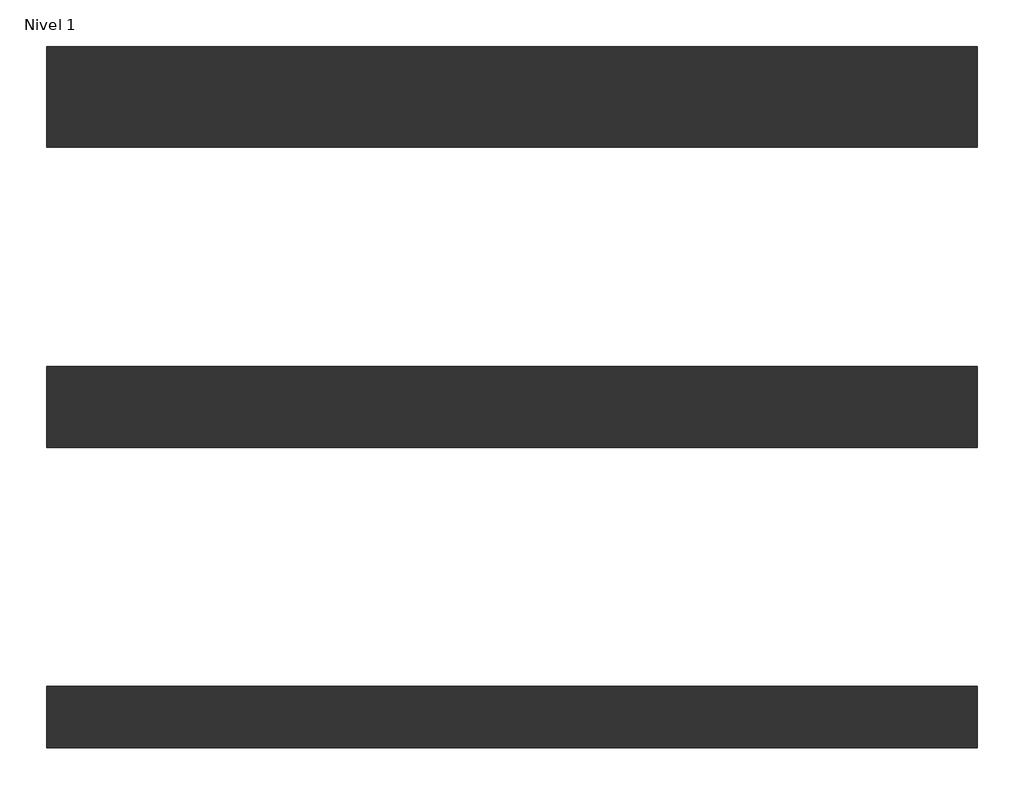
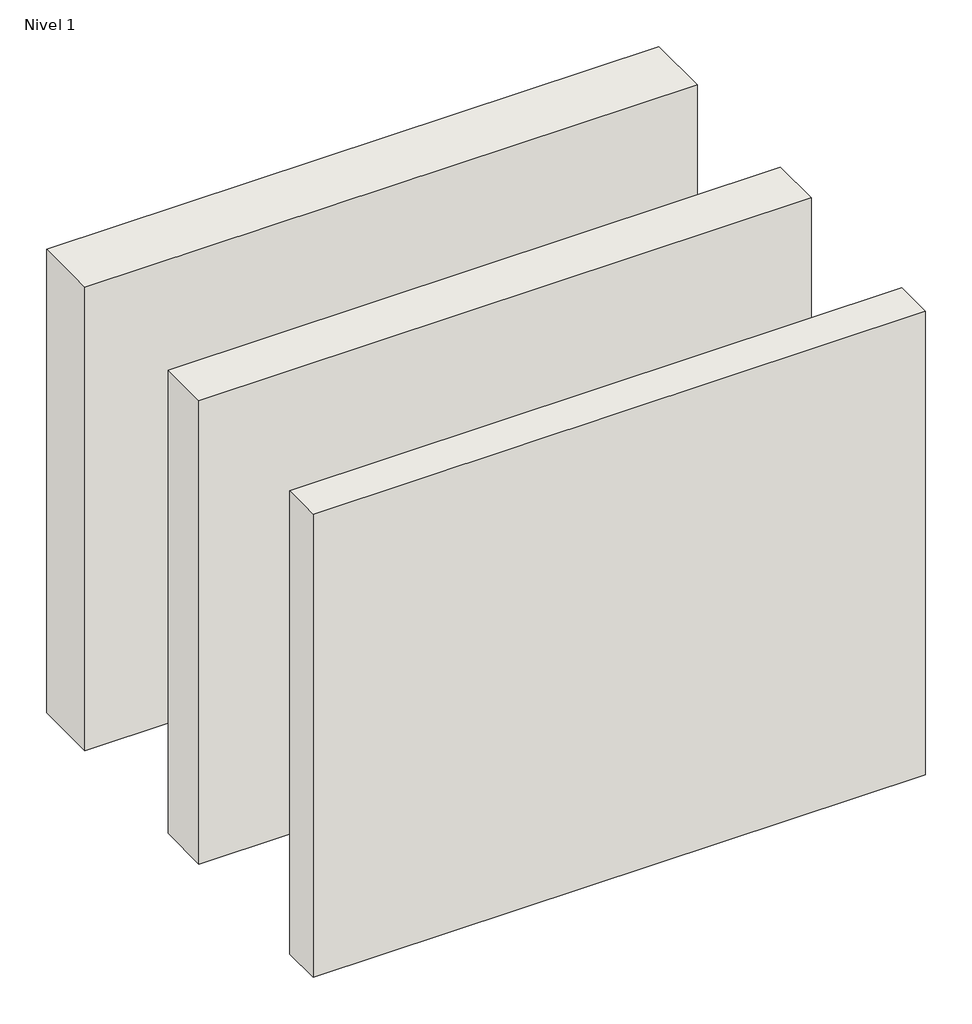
# One storey: 3 walls.
"""IFC4 building model written with IfcOpenShell, lengths in millimetres."""

from ifc_helpers import new_model, si_unit, origin, origin_with_axes, place, context, project, spatial, polyline, outline, extrude, element, save

model = new_model("IFC4")

# Units and contexts
model_context = context("Model", 3, world=origin())
ifc_project = project(units=[si_unit("LENGTHUNIT", "METRE", prefix="MILLI")], contexts=[model_context])

# Site, building, storey
site = spatial("IfcSite", under=ifc_project)
building = spatial("IfcBuilding", under=site)
storey = spatial("IfcBuildingStorey", under=building, Name="Nivel 1", Elevation=0.0)

# Walls
placement = place(None, origin())
element("IfcWall", 1, ObjectType="Placa Exacta 31", at=placement, inside=storey, context=model_context, shape_type="SweptSolid", body=[
    extrude(outline(polyline([(3663.879298, 13860.1618621), (663.879298, 13860.1618621), (663.879298, 14184.6618621), (3663.879298, 14184.6618621), (3663.879298, 13860.1618621)])), origin_with_axes(), (0.0, 0.0, 1.0), 2400.0),
])
element("IfcWall", 2, ObjectType="Placa Exacta 25", at=placement, inside=storey, context=model_context, shape_type="SweptSolid", body=[
    extrude(outline(polyline([(3663.879298, 12891.4118621), (663.879298, 12891.4118621), (663.879298, 13153.4118621), (3663.879298, 13153.4118621), (3663.879298, 12891.4118621)])), origin_with_axes(), (0.0, 0.0, 1.0), 2400.0),
])
element("IfcWall", 3, ObjectType="Placa Exacta 18", at=placement, inside=storey, context=model_context, shape_type="SweptSolid", body=[
    extrude(outline(polyline([(3663.879298, 11922.6618621), (663.879298, 11922.6618621), (663.879298, 12122.1618621), (3663.879298, 12122.1618621), (3663.879298, 11922.6618621)])), origin_with_axes(), (0.0, 0.0, 1.0), 2400.0),
])

save(model, "model.ifc")
